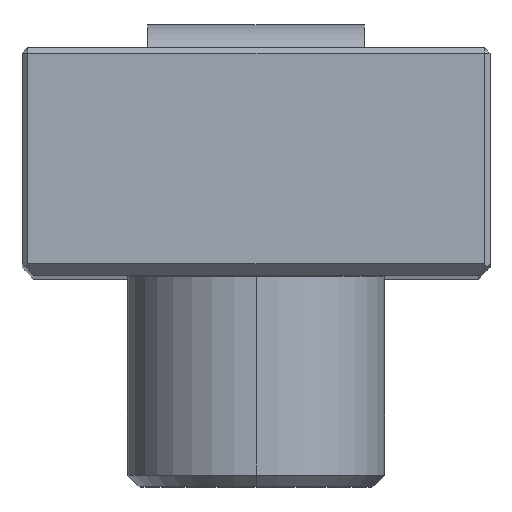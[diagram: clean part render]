
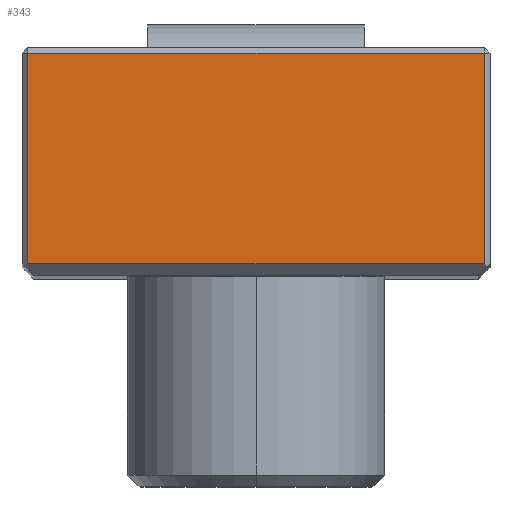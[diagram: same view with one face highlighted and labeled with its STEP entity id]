
A CAD part, top view. The second image highlights one B-rep face of the part: STEP entity #343.
In plain terms, the highlighted planar face has unit normal (0, 0, 1).
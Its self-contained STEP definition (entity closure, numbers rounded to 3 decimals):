
#283 = EDGE_CURVE ( 'NONE', #356, #284, #1141, .T. ) ;
#284 = VERTEX_POINT ( 'NONE', #1137 ) ;
#285 = ORIENTED_EDGE ( 'NONE', *, *, #286, .T. ) ;
#286 = EDGE_CURVE ( 'NONE', #284, #374, #1136, .T. ) ;
#343 = ADVANCED_FACE ( 'NONE', ( #1227 ), #1291, .F. ) ;
#344 = EDGE_LOOP ( 'NONE', ( #372, #376, #357, #285 ) ) ;
#356 = VERTEX_POINT ( 'NONE', #1270 ) ;
#357 = ORIENTED_EDGE ( 'NONE', *, *, #283, .T. ) ;
#372 = ORIENTED_EDGE ( 'NONE', *, *, #373, .T. ) ;
#373 = EDGE_CURVE ( 'NONE', #374, #375, #1307, .T. ) ;
#374 = VERTEX_POINT ( 'NONE', #1303 ) ;
#375 = VERTEX_POINT ( 'NONE', #1302 ) ;
#376 = ORIENTED_EDGE ( 'NONE', *, *, #377, .T. ) ;
#377 = EDGE_CURVE ( 'NONE', #375, #356, #1301, .T. ) ;
#1133 = DIRECTION ( 'NONE',  ( -1., 0., 0. ) ) ;
#1134 = VECTOR ( 'NONE', #1133, 1000. ) ;
#1135 = CARTESIAN_POINT ( 'NONE',  ( -20., 19., 90. ) ) ;
#1136 = LINE ( 'NONE', #1135, #1134 ) ;
#1137 = CARTESIAN_POINT ( 'NONE',  ( 19.5, 19., 90. ) ) ;
#1138 = DIRECTION ( 'NONE',  ( 0., 1., 0. ) ) ;
#1139 = VECTOR ( 'NONE', #1138, 1000. ) ;
#1140 = CARTESIAN_POINT ( 'NONE',  ( 19.5, 19.5, 90. ) ) ;
#1141 = LINE ( 'NONE', #1140, #1139 ) ;
#1227 = FACE_OUTER_BOUND ( 'NONE', #344, .T. ) ;
#1270 = CARTESIAN_POINT ( 'NONE',  ( 19.5, 1., 90. ) ) ;
#1287 = DIRECTION ( 'NONE',  ( -1., 0., 0. ) ) ;
#1288 = DIRECTION ( 'NONE',  ( 0., 0., -1. ) ) ;
#1289 = CARTESIAN_POINT ( 'NONE',  ( 20., 19.5, 90. ) ) ;
#1290 = AXIS2_PLACEMENT_3D ( 'NONE', #1289, #1288, #1287 ) ;
#1291 = PLANE ( 'NONE',  #1290 ) ;
#1298 = DIRECTION ( 'NONE',  ( 1., 0., 0. ) ) ;
#1299 = VECTOR ( 'NONE', #1298, 1000. ) ;
#1300 = CARTESIAN_POINT ( 'NONE',  ( 19.5, 1., 90. ) ) ;
#1301 = LINE ( 'NONE', #1300, #1299 ) ;
#1302 = CARTESIAN_POINT ( 'NONE',  ( -19.5, 1., 90. ) ) ;
#1303 = CARTESIAN_POINT ( 'NONE',  ( -19.5, 19., 90. ) ) ;
#1304 = DIRECTION ( 'NONE',  ( 0., -1., 0. ) ) ;
#1305 = VECTOR ( 'NONE', #1304, 1000. ) ;
#1306 = CARTESIAN_POINT ( 'NONE',  ( -19.5, 0., 90. ) ) ;
#1307 = LINE ( 'NONE', #1306, #1305 ) ;
